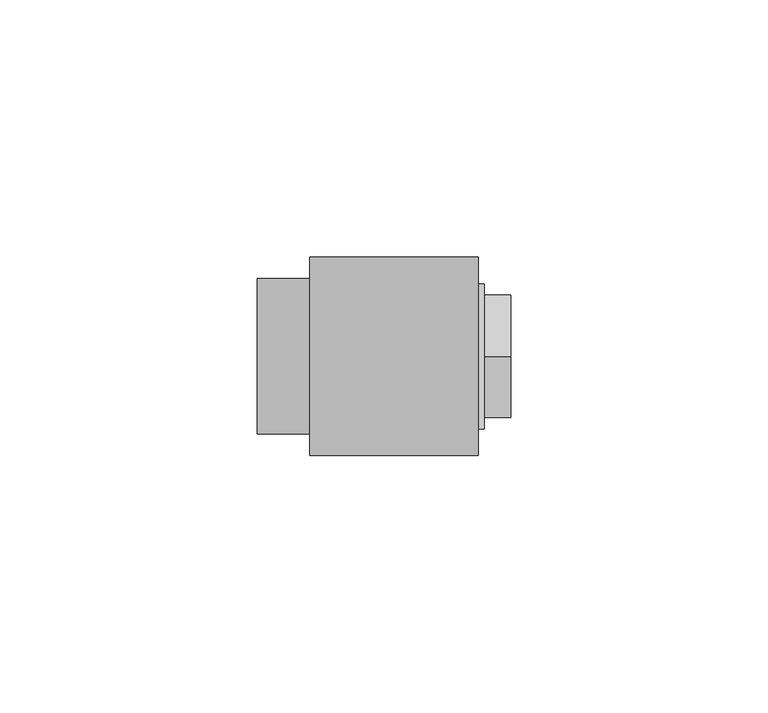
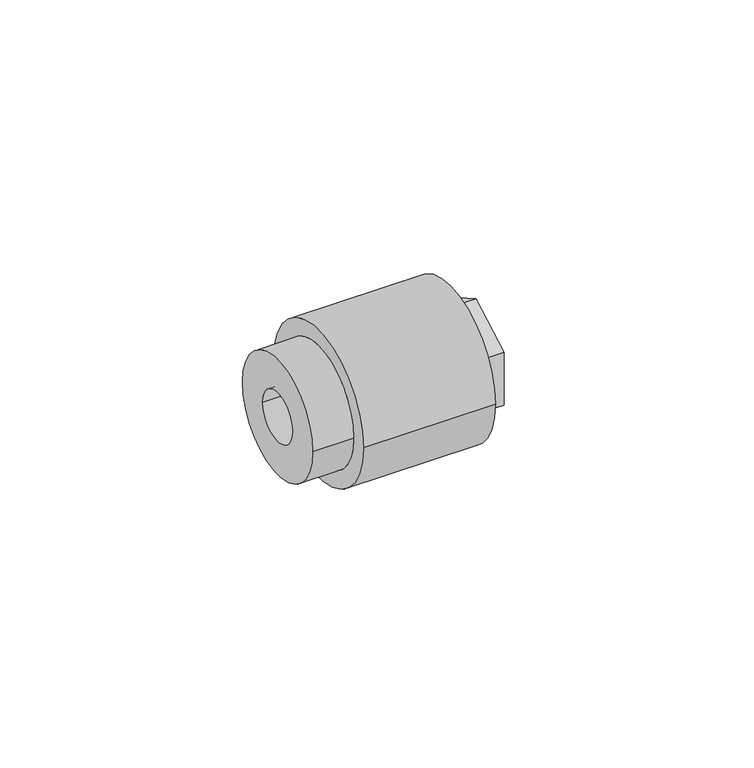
"""IFC4 building model written with IfcOpenShell, lengths in millimetres: pipe fitting geometry, Aquatherm - Fusion Outlet Transition Female : POTABLE BRASS - HEX."""

from ifc_helpers import new_model, si_unit, frame, origin, place, context, project, spatial, polyline, circle_curve, source, transform, mapped, element, save
from ifc_brep_helpers import plane_surface, cylinder_surface, revolved_surface, advanced_brep


def pipe_fitting_c2507885(model_context):
    return source(origin(), model_context, "Body", "AdvancedBrep", [
        advanced_brep(
        [(26.416, 9.525, 0.0), (26.416, -9.525, 0.0), (36.5363125, -9.525, 0.0), (36.5363125, 9.525, 0.0), (26.416, 10.31875, 0.0), (26.416, -10.31875, 0.0), (23.241, 10.31875, 0.0), (23.241, -10.31875, 0.0), (23.241, 6.35, 0.0), (23.241, -6.35, 0.0), (20.066, 6.35, 0.0), (20.066, -6.35, 0.0), (20.066, 15.113, 0.0), (20.066, -15.113, 0.0), (32.766, 15.113, 0.0), (32.766, -15.113, 0.0), (39.116, 10.31875, 0.0), (39.116, -10.31875, 0.0), (39.116, -11.938, 0.0), (39.116, -11.938, -6.8924075), (39.116, 0.0, -13.784815), (39.116, 11.938, -6.8924075), (39.116, 11.938, 0.0), (39.116, 11.938, 6.8924075), (39.116, 0.0, 13.784815), (39.116, -11.938, 6.8924075), (32.766, 14.097, 0.0), (32.766, -14.097, 0.0), (33.956625, 14.097, 0.0), (33.956625, -14.097, 0.0), (33.956625, 0.0, -13.784815), (33.956625, -11.938, -6.8924075), (33.956625, -11.938, 6.8924075), (33.956625, 0.0, 13.784815), (33.956625, 11.938, 6.8924075), (33.956625, 11.938, -6.8924075)],
        [
            (0, 1, circle_curve(frame((26.416, 0.0, 0.0), z_axis=(-1.0, 0.0, 0.0), x_axis=(0.0, -1.0, 0.0)), 9.525)),
            (1, 2),
            (2, 3, circle_curve(frame((36.5363125, 0.0, 0.0), z_axis=(1.0, 0.0, 0.0), x_axis=(0.0, -1.0, 0.0)), 9.525)),
            (3, 0),
            (1, 0, circle_curve(frame((26.416, 0.0, 0.0), z_axis=(-1.0, 0.0, 0.0), x_axis=(0.0, -1.0, 0.0)), 9.525)),
            (3, 2, circle_curve(frame((36.5363125, 0.0, 0.0), z_axis=(1.0, 0.0, 0.0), x_axis=(0.0, -1.0, 0.0)), 9.525)),
            (0, 4),
            (4, 5, circle_curve(frame((26.416, 0.0, 0.0), z_axis=(-1.0, 0.0, 0.0), x_axis=(0.0, -1.0, 0.0)), 10.31875)),
            (5, 1),
            (5, 4, circle_curve(frame((26.416, 0.0, 0.0), z_axis=(-1.0, 0.0, 0.0), x_axis=(0.0, -1.0, 0.0)), 10.31875)),
            (4, 6),
            (6, 7, circle_curve(frame((23.241, 0.0, 0.0), z_axis=(-1.0, 0.0, 0.0), x_axis=(0.0, -1.0, 0.0)), 10.31875)),
            (7, 5),
            (7, 6, circle_curve(frame((23.241, 0.0, 0.0), z_axis=(-1.0, 0.0, 0.0), x_axis=(0.0, -1.0, 0.0)), 10.31875)),
            (6, 8),
            (8, 9, circle_curve(frame((23.241, 0.0, 0.0), z_axis=(-1.0, 0.0, 0.0), x_axis=(0.0, -1.0, 0.0)), 6.35)),
            (9, 7),
            (9, 8, circle_curve(frame((23.241, 0.0, 0.0), z_axis=(-1.0, 0.0, 0.0), x_axis=(0.0, -1.0, 0.0)), 6.35)),
            (8, 10),
            (10, 11, circle_curve(frame((20.066, 0.0, 0.0), z_axis=(-1.0, 0.0, 0.0), x_axis=(0.0, -1.0, 0.0)), 6.35)),
            (11, 9),
            (11, 10, circle_curve(frame((20.066, 0.0, 0.0), z_axis=(-1.0, 0.0, 0.0), x_axis=(0.0, -1.0, 0.0)), 6.35)),
            (10, 12),
            (12, 13, circle_curve(frame((20.066, 0.0, 0.0), z_axis=(-1.0, 0.0, 0.0), x_axis=(0.0, -1.0, 0.0)), 15.113)),
            (13, 11),
            (13, 12, circle_curve(frame((20.066, 0.0, 0.0), z_axis=(-1.0, 0.0, 0.0), x_axis=(0.0, -1.0, 0.0)), 15.113)),
            (12, 14),
            (14, 15, circle_curve(frame((32.766, 0.0, 0.0), z_axis=(-1.0, 0.0, 0.0), x_axis=(0.0, -1.0, 0.0)), 15.113)),
            (15, 13),
            (15, 14, circle_curve(frame((32.766, 0.0, 0.0), z_axis=(-1.0, 0.0, 0.0), x_axis=(0.0, -1.0, 0.0)), 15.113)),
            (16, 17, circle_curve(frame((39.116, 0.0, 0.0), z_axis=(-1.0, 0.0, 0.0), x_axis=(0.0, -1.0, 0.0)), 10.31875)),
            (17, 18),
            (18, 19),
            (19, 20),
            (20, 21),
            (21, 22),
            (22, 16),
            (17, 16, circle_curve(frame((39.116, 0.0, 0.0), z_axis=(-1.0, 0.0, 0.0), x_axis=(0.0, -1.0, 0.0)), 10.31875)),
            (22, 23),
            (23, 24),
            (24, 25),
            (25, 18),
            (2, 17),
            (16, 3),
            (14, 26),
            (26, 27, circle_curve(frame((32.766, 0.0, 0.0), z_axis=(-1.0, 0.0, 0.0), x_axis=(0.0, -1.0, 0.0)), 14.097)),
            (27, 15),
            (27, 26, circle_curve(frame((32.766, 0.0, 0.0), z_axis=(-1.0, 0.0, 0.0), x_axis=(0.0, -1.0, 0.0)), 14.097)),
            (26, 28),
            (28, 29, circle_curve(frame((33.956625, 0.0, 0.0), z_axis=(-1.0, 0.0, 0.0), x_axis=(0.0, -1.0, 0.0)), 14.097)),
            (29, 27),
            (29, 28, circle_curve(frame((33.956625, 0.0, 0.0), z_axis=(-1.0, 0.0, 0.0), x_axis=(0.0, -1.0, 0.0)), 14.097)),
            (30, 31),
            (31, 32),
            (32, 33),
            (33, 34),
            (34, 35),
            (35, 30),
            (35, 21),
            (20, 30),
            (34, 23),
            (33, 24),
            (32, 25),
            (31, 19),
        ],
        [
            revolved_surface(polyline([(36.5363125, -9.525, 0.0), (26.416, -9.525, 0.0)]), (40.9492251, 0.0, 0.0), (1.0, 0.0, 0.0)),
            plane_surface(frame((26.416, 0.0, 0.0), z_axis=(-1.0, 0.0, 0.0), x_axis=(0.0, -1.0, 0.0))),
            revolved_surface(polyline([(26.416, -10.31875, 0.0), (23.241, -10.31875, 0.0)]), (40.9492251, 0.0, 0.0), (1.0, 0.0, 0.0)),
            plane_surface(frame((23.241, 0.0, 0.0), z_axis=(1.0, 0.0, 0.0), x_axis=(0.0, -1.0, 0.0))),
            revolved_surface(polyline([(23.241, -6.35, 0.0), (20.066, -6.35, 0.0)]), (40.9492251, 0.0, 0.0), (1.0, 0.0, 0.0)),
            plane_surface(frame((20.066, 0.0, 0.0), z_axis=(-1.0, 0.0, 0.0), x_axis=(0.0, -1.0, 0.0))),
            cylinder_surface(frame((40.9492251, 0.0, 0.0), z_axis=(1.0, 0.0, 0.0), x_axis=(0.0, -1.0, 0.0)), 15.113),
            plane_surface(frame((39.116, 0.0, 0.0), z_axis=(1.0, 0.0, 0.0), x_axis=(0.0, -1.0, 0.0))),
            revolved_surface(polyline([(39.116, -10.31875, 0.0), (36.5363125, -9.525, 0.0)]), (40.9492251, 0.0, 0.0), (1.0, 0.0, 0.0)),
            plane_surface(frame((32.766, 0.0, 0.0), z_axis=(1.0, 0.0, 0.0), x_axis=(0.0, -1.0, 0.0))),
            cylinder_surface(frame((40.9492251, 0.0, 0.0), z_axis=(1.0, 0.0, 0.0), x_axis=(0.0, -1.0, 0.0)), 14.097),
            plane_surface(frame((33.956625, 11.938, -6.8924075), z_axis=(1.0, 0.0, 0.0), x_axis=(0.0, 0.8660254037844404, 0.49999999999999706))),
            plane_surface(frame((33.956625, 0.0, -13.784815), z_axis=(0.0, 0.49999999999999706, -0.8660254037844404), x_axis=(1.0, 0.0, 0.0))),
            plane_surface(frame((33.956625, 11.938, -6.8924075), z_axis=(0.0, 1.0, 0.0), x_axis=(1.0, 0.0, 0.0))),
            plane_surface(frame((33.956625, 11.938, 6.8924075), z_axis=(0.0, 0.5000000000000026, 0.8660254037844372), x_axis=(1.0, 0.0, 0.0))),
            plane_surface(frame((33.956625, 0.0, 13.784815), z_axis=(0.0, -0.4999999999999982, 0.8660254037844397), x_axis=(1.0, 0.0, 0.0))),
            plane_surface(frame((33.956625, -11.938, 6.8924075), z_axis=(0.0, -1.0, 0.0), x_axis=(1.0, 0.0, 0.0))),
            plane_surface(frame((33.956625, -11.938, -6.8924075), z_axis=(0.0, -0.5000000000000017, -0.8660254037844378), x_axis=(1.0, 0.0, 0.0))),
        ],
        [
            (0, [[1, 2, 3, 4]]),
            (0, [[-2, 5, -4, 6]]),
            (1, [[-1, 7, 8, 9]]),
            (1, [[-5, -9, 10, -7]]),
            (2, [[-8, 11, 12, 13]]),
            (2, [[-10, -13, 14, -11]]),
            (3, [[-12, 15, 16, 17]]),
            (3, [[-14, -17, 18, -15]]),
            (4, [[-16, 19, 20, 21]]),
            (4, [[-18, -21, 22, -19]]),
            (5, [[-20, 23, 24, 25]]),
            (5, [[-22, -25, 26, -23]]),
            (6, [[-24, 27, 28, 29]]),
            (6, [[-26, -29, 30, -27]]),
            (7, [[31, 32, 33, 34, 35, 36, 37]]),
            (7, [[38, -37, 39, 40, 41, 42, -32]]),
            (8, [[-3, 43, -31, 44]]),
            (8, [[-6, -44, -38, -43]]),
            (9, [[-28, 45, 46, 47]]),
            (9, [[-30, -47, 48, -45]]),
            (10, [[-46, 49, 50, 51]]),
            (10, [[-48, -51, 52, -49]]),
            (11, [[-50, -52], [53, 54, 55, 56, 57, 58]]),
            (12, [[-58, 59, -35, 60]]),
            (13, [[-57, 61, -39, -36, -59]]),
            (14, [[-56, 62, -40, -61]]),
            (15, [[-55, 63, -41, -62]]),
            (16, [[-54, 64, -33, -42, -63]]),
            (17, [[-53, -60, -34, -64]]),
        ],
    ),
        advanced_brep(
        [(-10.16, 15.113, 0.0), (-10.16, -15.113, 0.0), (-10.16, 6.35, 0.0), (-10.16, -6.35, 0.0), (20.066, 15.113, 0.0), (20.066, -15.113, 0.0), (20.066, 6.35, 0.0), (20.066, -6.35, 0.0), (0.0, 15.113, 0.0), (0.0, -15.113, 0.0), (32.766, 19.304, 0.0), (32.766, -19.304, 0.0), (32.766, 15.113, 0.0), (32.766, -15.113, 0.0), (0.0, 19.304, 0.0), (0.0, -19.304, 0.0)],
        [
            (0, 1, circle_curve(frame((-10.16, 0.0, 0.0), z_axis=(-1.0, 0.0, 0.0), x_axis=(0.0, -1.0, 0.0)), 15.113)),
            (1, 0, circle_curve(frame((-10.16, 0.0, 0.0), z_axis=(-1.0, 0.0, 0.0), x_axis=(0.0, -1.0, 0.0)), 15.113)),
            (2, 3, circle_curve(frame((-10.16, 0.0, 0.0), z_axis=(1.0, 0.0, 0.0), x_axis=(0.0, -1.0, 0.0)), 6.35)),
            (3, 2, circle_curve(frame((-10.16, 0.0, 0.0), z_axis=(1.0, 0.0, 0.0), x_axis=(0.0, -1.0, 0.0)), 6.35)),
            (4, 5, circle_curve(frame((20.066, 0.0, 0.0), z_axis=(1.0, 0.0, 0.0), x_axis=(0.0, -1.0, 0.0)), 15.113)),
            (5, 4, circle_curve(frame((20.066, 0.0, 0.0), z_axis=(1.0, 0.0, 0.0), x_axis=(0.0, -1.0, 0.0)), 15.113)),
            (6, 7, circle_curve(frame((20.066, 0.0, 0.0), z_axis=(-1.0, 0.0, 0.0), x_axis=(0.0, -1.0, 0.0)), 6.35)),
            (7, 6, circle_curve(frame((20.066, 0.0, 0.0), z_axis=(-1.0, 0.0, 0.0), x_axis=(0.0, -1.0, 0.0)), 6.35)),
            (2, 6),
            (7, 3),
            (0, 8),
            (8, 9, circle_curve(frame((0.0, 0.0, 0.0), z_axis=(-1.0, 0.0, 0.0), x_axis=(0.0, -1.0, 0.0)), 15.113)),
            (9, 1),
            (9, 8, circle_curve(frame((0.0, 0.0, 0.0), z_axis=(-1.0, 0.0, 0.0), x_axis=(0.0, -1.0, 0.0)), 15.113)),
            (10, 11, circle_curve(frame((32.766, 0.0, 0.0), z_axis=(1.0, 0.0, 0.0), x_axis=(0.0, -1.0, 0.0)), 19.304)),
            (11, 10, circle_curve(frame((32.766, 0.0, 0.0), z_axis=(1.0, 0.0, 0.0), x_axis=(0.0, -1.0, 0.0)), 19.304)),
            (12, 13, circle_curve(frame((32.766, 0.0, 0.0), z_axis=(-1.0, 0.0, 0.0), x_axis=(0.0, -1.0, 0.0)), 15.113)),
            (13, 12, circle_curve(frame((32.766, 0.0, 0.0), z_axis=(-1.0, 0.0, 0.0), x_axis=(0.0, -1.0, 0.0)), 15.113)),
            (14, 15, circle_curve(frame((0.0, 0.0, 0.0), z_axis=(-1.0, 0.0, 0.0), x_axis=(0.0, -1.0, 0.0)), 19.304)),
            (15, 14, circle_curve(frame((0.0, 0.0, 0.0), z_axis=(-1.0, 0.0, 0.0), x_axis=(0.0, -1.0, 0.0)), 19.304)),
            (13, 5),
            (4, 12),
            (11, 15),
            (14, 10),
        ],
        [
            plane_surface(frame((-10.16, -6.35, 0.0), z_axis=(-1.0, 0.0, 0.0), x_axis=(0.0, 0.0, -1.0))),
            plane_surface(frame((20.066, -6.35, 0.0), z_axis=(1.0, 0.0, 0.0), x_axis=(0.0, 0.0, 1.0))),
            revolved_surface(polyline([(20.066, -6.35, 0.0), (-10.16, -6.35, 0.0)]), (20.066, 0.0, 0.0), (1.0, 0.0, 0.0)),
            cylinder_surface(frame((0.0, 0.0, 0.0), z_axis=(-1.0, 0.0, 0.0), x_axis=(0.0, -1.0, 0.0)), 15.113),
            plane_surface(frame((32.766, -15.113, 0.0), z_axis=(1.0, 0.0, 0.0), x_axis=(0.0, 0.0, 1.0))),
            plane_surface(frame((0.0, -15.113, 0.0), z_axis=(-1.0, 0.0, 0.0), x_axis=(0.0, 0.0, -1.0))),
            revolved_surface(polyline([(32.766, -15.113, 0.0), (20.066, -15.113, 0.0)]), (32.766, 0.0, 0.0), (1.0, 0.0, 0.0)),
            cylinder_surface(frame((0.0, 0.0, 0.0), z_axis=(-1.0, 0.0, 0.0), x_axis=(0.0, -1.0, 0.0)), 19.304),
        ],
        [
            (0, [[1, 2], [3, 4]]),
            (1, [[5, 6], [7, 8]]),
            (2, [[-3, 9, -8, 10]]),
            (2, [[-4, -10, -7, -9]]),
            (3, [[-1, 11, 12, 13]]),
            (3, [[-2, -13, 14, -11]]),
            (4, [[15, 16], [17, 18]]),
            (5, [[19, 20], [-12, -14]]),
            (6, [[-18, 21, -5, 22]]),
            (6, [[-17, -22, -6, -21]]),
            (7, [[-16, 23, -19, 24]]),
            (7, [[-15, -24, -20, -23]]),
        ],
    ),
    ])


if __name__ == "__main__":
    model = new_model("IFC4")
    model_context = context("Model", 3, world=origin())
    ifc_project = project(units=[si_unit("LENGTHUNIT", "METRE", prefix="MILLI")], contexts=[model_context])
    site = spatial("IfcSite", under=ifc_project)
    building = spatial("IfcBuilding", under=site)
    placement = place(None, origin())
    pipe_fitting_shape = pipe_fitting_c2507885(model_context)
    element("IfcPipeFitting", 1, ObjectType="Aquatherm - Fusion Outlet Transition Female : POTABLE BRASS - HEX", at=placement, inside=building, context=model_context, shape_type="MappedRepresentation", body=[
        mapped(pipe_fitting_shape, transform((0.0, 0.0, 0.0), x_axis=(1.0, 0.0, 0.0), y_axis=(0.0, 1.0, 0.0), z_axis=(0.0, 0.0, 1.0))),
    ])
    save(model, "model.ifc")
